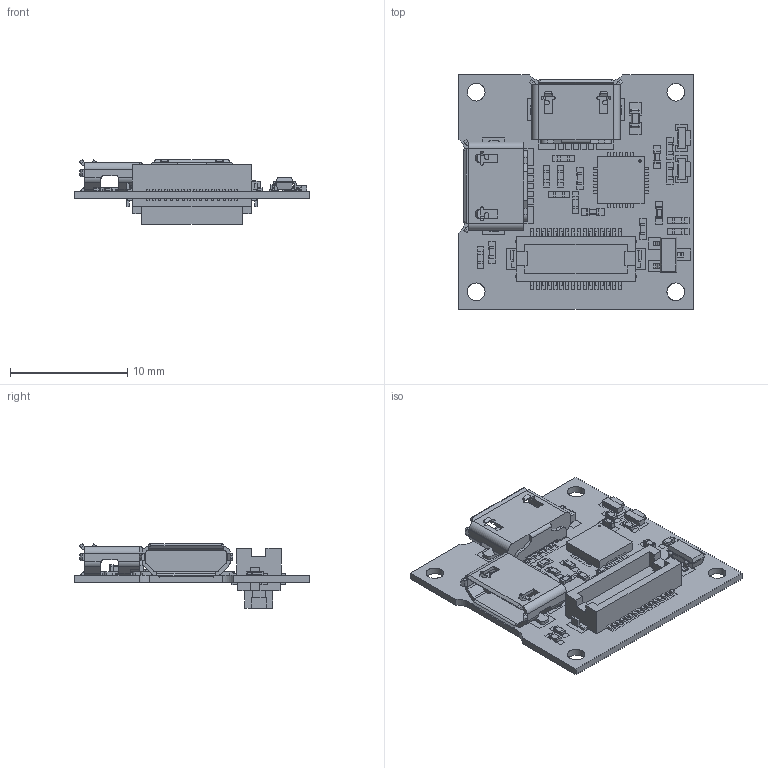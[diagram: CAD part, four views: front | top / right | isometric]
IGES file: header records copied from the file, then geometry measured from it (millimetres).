
Global section: file name: Filename.iges; native system: Open CASCADE 7.4; preprocessor: Open CASCADE IGES processor 7.4; date: 20200722.151943; units: millimetre
Bounding box: 20 x 20 x 5.5 mm (x, y, z)
Surface area: 3319.2 mm2 (no closed solid volume)
Topology: 0 solids, 0 shells, 4387 faces, 21378 edges, 23961 vertices
Faces by surface type: plane 4007, revolution 380
